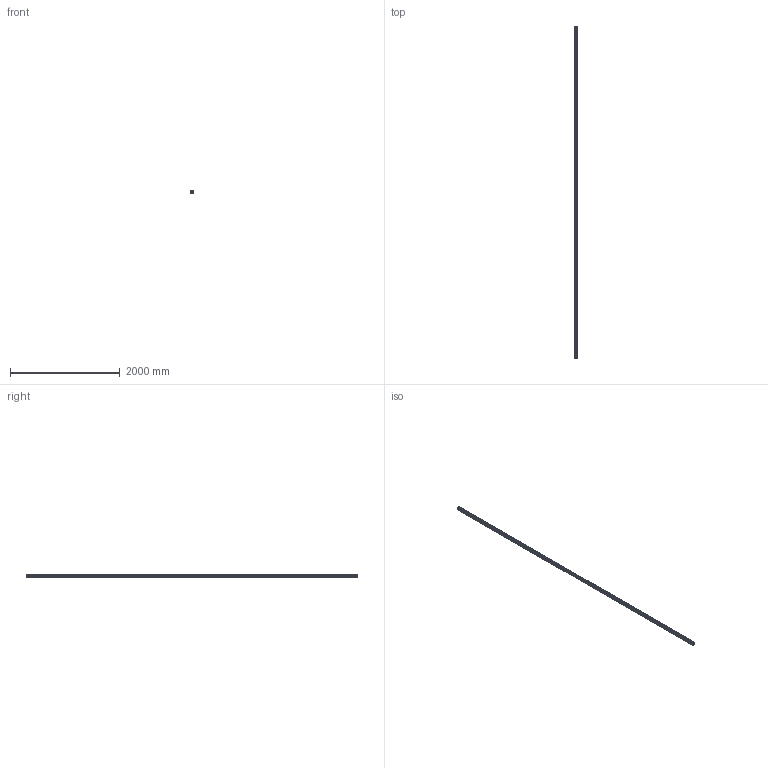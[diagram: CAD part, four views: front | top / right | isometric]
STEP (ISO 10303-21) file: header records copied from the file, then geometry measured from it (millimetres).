
FILE_DESCRIPTION (( 'STEP AP203' ), '1' );
FILE_NAME ('20215000_Profil 10 50x50E.step', '2021-06-19T10:24:14', ( '' ), ( '' ), 'SwSTEP 2.0', 'SolidWorks 2021', '' );
FILE_SCHEMA (( 'CONFIG_CONTROL_DESIGN' ));
Length unit declared in the file: millimetre
Products named in the file (1): 20215000_Profil 10 50x50E
Bounding box: 50 x 6060 x 50 mm (x, y, z)
Volume: 5297687.8 mm3; surface area: 4253693.6 mm2
Topology: 1 solids, 1 shells, 242 faces, 720 edges, 480 vertices
Faces by surface type: cylinder 164, plane 78
Entity records: 8385 total; most frequent: DIRECTION 1534, CARTESIAN_POINT 1443, ORIENTED_EDGE 1440, EDGE_CURVE 720, AXIS2_PLACEMENT_3D 571, VERTEX_POINT 480, LINE 392, VECTOR 392
